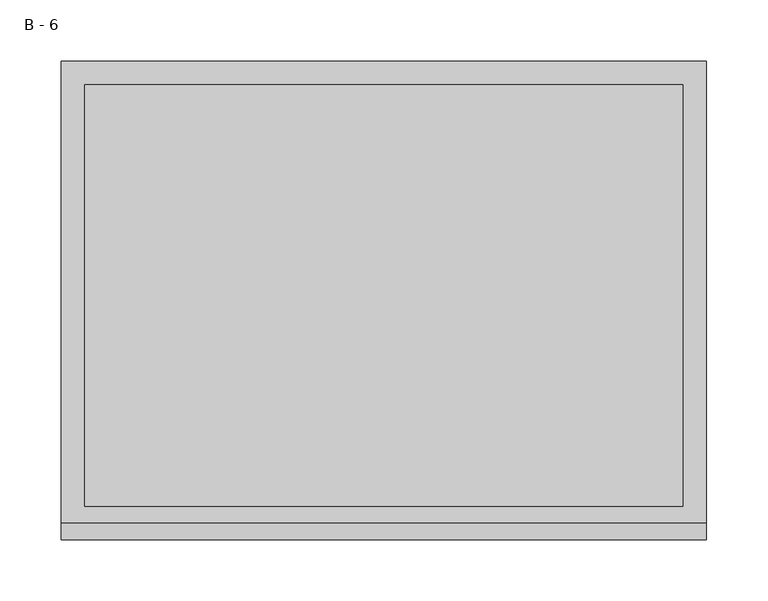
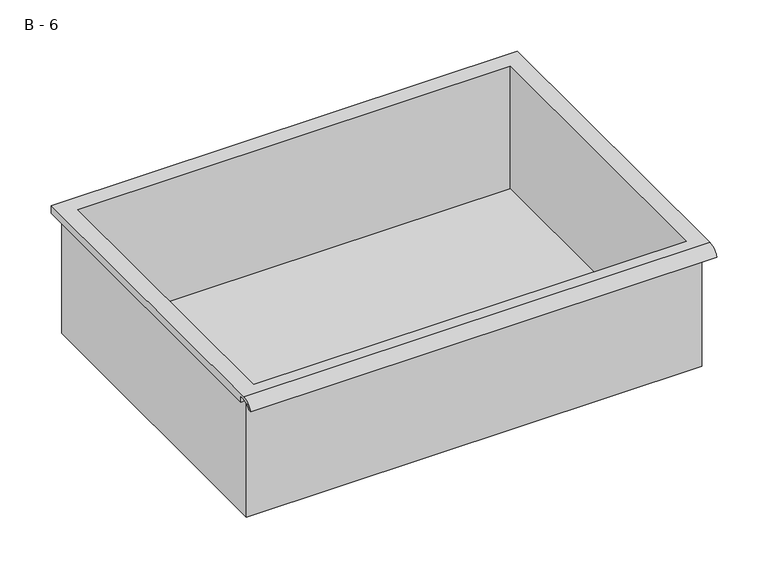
"""IFC4 building model written with IfcOpenShell, lengths in millimetres: furniture geometry, HermanMiller_CoStruc_CO207_Drawer : B - 6."""

from ifc_helpers import new_model, si_unit, frame, origin, place, context, project, spatial, polyline, circle_curve, source, transform, mapped, element, save
from ifc_brep_helpers import plane_surface, cylinder_surface, revolved_surface, advanced_brep


def b_6_024dd25a(model_context):
    return source(origin(), model_context, "Body", "AdvancedBrep", [
        advanced_brep(
        [(-257.1076517, -176.2125, 542.925), (257.2423483, -176.2125, 542.925), (257.2423483, -176.2125, 682.625), (263.5923483, -176.2125, 682.625), (263.5923483, -176.2125, 688.9321341), (-263.4576517, -176.2125, 688.9321341), (-263.4576517, -176.2125, 682.625), (-257.1076517, -176.2125, 682.625), (257.2423483, 185.7375, 542.925), (-257.1076517, 185.7375, 542.925), (-257.1076517, 185.7375, 682.625), (257.2423483, 185.7375, 682.625), (263.5923483, -181.6070544, 692.15), (263.5923483, 195.2625, 692.15), (-263.4576517, 195.2625, 692.15), (-263.4576517, -181.6070544, 692.15), (244.5423483, -168.275, 692.15), (-244.4076517, -168.275, 692.15), (-244.4076517, 176.2125, 692.15), (244.5423483, 176.2125, 692.15), (263.5923483, -195.2625, 682.625), (263.5923483, -191.8280601, 682.625), (263.5923483, -180.4714815, 688.9321341), (263.5923483, 195.2625, 682.625), (-263.4576517, 195.2625, 682.625), (-263.4576517, -180.4714815, 688.9321341), (-263.4576517, -191.8280601, 682.625), (-263.4576517, -195.2625, 682.625), (-244.4076517, -168.275, 545.9511719), (244.5423483, -168.275, 545.9511719), (244.5423483, 176.2125, 545.9511719), (-244.4076517, 176.2125, 545.9511719)],
        [
            (0, 1),
            (1, 2),
            (2, 3),
            (3, 4),
            (4, 5),
            (5, 6),
            (6, 7),
            (7, 0),
            (8, 9),
            (9, 10),
            (10, 11),
            (11, 8),
            (0, 9),
            (8, 1),
            (11, 2),
            (12, 13),
            (13, 14),
            (14, 15),
            (15, 12),
            (16, 17),
            (17, 18),
            (18, 19),
            (19, 16),
            (7, 10),
            (12, 20, circle_curve(frame((263.5923483, -181.6070544, 677.5989859), z_axis=(1.0, 0.0, 0.0), x_axis=(0.0, 1.0, 0.0)), 14.5510141)),
            (20, 21),
            (21, 22, circle_curve(frame((263.5923483, -181.6070544, 677.5989859), z_axis=(-1.0, 0.0, 0.0), x_axis=(0.0, 1.0, 0.0)), 11.3898979)),
            (22, 4),
            (3, 23),
            (23, 13),
            (14, 24),
            (24, 6),
            (5, 25),
            (25, 26, circle_curve(frame((-263.4576517, -181.6070544, 677.5989859), z_axis=(1.0, 0.0, 0.0), x_axis=(0.0, 1.0, 0.0)), 11.3898979)),
            (26, 27),
            (27, 15, circle_curve(frame((-263.4576517, -181.6070544, 677.5989859), z_axis=(-1.0, 0.0, 0.0), x_axis=(0.0, 1.0, 0.0)), 14.5510141)),
            (27, 20),
            (26, 21),
            (25, 22),
            (24, 23),
            (28, 29),
            (29, 30),
            (30, 31),
            (31, 28),
            (28, 17),
            (16, 29),
            (19, 30),
            (18, 31),
        ],
        [
            plane_surface(frame((257.2423483, -176.2125, 542.925), z_axis=(0.0, -1.0, 0.0), x_axis=(1.0, 0.0, 0.0))),
            plane_surface(frame((257.2423483, 185.7375, 542.925), z_axis=(0.0, 1.0, 0.0), x_axis=(-1.0, 0.0, 0.0))),
            plane_surface(frame((-257.1076517, -176.2125, 542.925), z_axis=(0.0, 0.0, -1.0), x_axis=(0.0, 1.0, 0.0))),
            plane_surface(frame((257.2423483, -176.2125, 542.925), z_axis=(1.0, 0.0, 0.0), x_axis=(0.0, 1.0, 0.0))),
            plane_surface(frame((257.2423483, -176.2125, 692.15), z_axis=(0.0, 0.0, 1.0), x_axis=(0.0, 1.0, 0.0))),
            plane_surface(frame((-257.1076517, -176.2125, 692.15), z_axis=(-1.0, 0.0, 0.0), x_axis=(0.0, 1.0, 0.0))),
            plane_surface(frame((263.5923483, 195.2625, 692.15), z_axis=(1.0, 0.0, 0.0), x_axis=(0.0, -1.0, 0.0))),
            plane_surface(frame((-263.4576517, 195.2625, 692.15), z_axis=(-1.0, 0.0, 0.0), x_axis=(0.0, 1.0, 0.0))),
            cylinder_surface(frame((-263.4576517, -181.6070544, 677.5989859), z_axis=(1.0, 0.0, 0.0), x_axis=(0.0, 1.0, 0.0)), 14.5510141),
            plane_surface(frame((263.5923483, -195.2625, 682.625), z_axis=(0.0, -7.212409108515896e-12, -1.0), x_axis=(-1.0, 0.0, 0.0))),
            revolved_surface(polyline([(-263.4576517, -170.21715650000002, 677.5989859), (263.59234829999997, -170.21715650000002, 677.5989859)]), (-263.4576517, -181.6070544, 677.5989859), (-1.0, 0.0, 0.0)),
            plane_surface(frame((263.5923483, -180.4714815, 688.9321341), z_axis=(0.0, -1.7861410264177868e-11, -1.0), x_axis=(-1.0, 0.0, 0.0))),
            plane_surface(frame((263.5923483, -176.2125, 682.625), z_axis=(0.0, 0.0, -1.0), x_axis=(-1.0, 0.0, 0.0))),
            plane_surface(frame((263.5923483, 195.2625, 682.625), z_axis=(0.0, 1.0, 0.0), x_axis=(-1.0, 0.0, 0.0))),
            plane_surface(frame((244.5423483, -168.275, 545.9511719), z_axis=(0.0, 0.0, 1.0), x_axis=(-1.0, 0.0, 0.0))),
            plane_surface(frame((-244.4076517, -168.275, 692.15), z_axis=(0.0, 1.0, 0.0), x_axis=(0.0, 0.0, -1.0))),
            plane_surface(frame((244.5423483, -168.275, 692.15), z_axis=(-1.0, 0.0, 0.0), x_axis=(0.0, 0.0, -1.0))),
            plane_surface(frame((244.5423483, 176.2125, 692.15), z_axis=(0.0, -1.0, 0.0), x_axis=(0.0, 0.0, -1.0))),
            plane_surface(frame((-244.4076517, 176.2125, 692.15), z_axis=(1.0, 0.0, 0.0), x_axis=(0.0, 0.0, -1.0))),
        ],
        [
            (0, [[1, 2, 3, 4, 5, 6, 7, 8]]),
            (1, [[9, 10, 11, 12]]),
            (2, [[-1, 13, -9, 14]]),
            (3, [[-14, -12, 15, -2]]),
            (4, [[16, 17, 18, 19], [20, 21, 22, 23]]),
            (5, [[-13, -8, 24, -10]]),
            (6, [[-16, 25, 26, 27, 28, -4, 29, 30]]),
            (7, [[31, 32, -6, 33, 34, 35, 36, -18]]),
            (8, [[-25, -19, -36, 37]]),
            (9, [[-26, -37, -35, 38]]),
            (10, [[-27, -38, -34, 39]]),
            (11, [[-28, -39, -33, -5]]),
            (12, [[-29, -3, -15, -11, -24, -7, -32, 40]]),
            (13, [[-30, -40, -31, -17]]),
            (14, [[41, 42, 43, 44]]),
            (15, [[-41, 45, -20, 46]]),
            (16, [[-42, -46, -23, 47]]),
            (17, [[-43, -47, -22, 48]]),
            (18, [[-44, -48, -21, -45]]),
        ],
    ),
    ])


if __name__ == "__main__":
    model = new_model("IFC4")
    model_context = context("Model", 3, world=origin())
    ifc_project = project(units=[si_unit("LENGTHUNIT", "METRE", prefix="MILLI")], contexts=[model_context])
    site = spatial("IfcSite", under=ifc_project)
    building = spatial("IfcBuilding", under=site)
    placement = place(None, origin())
    b_6_shape = b_6_024dd25a(model_context)
    element("IfcFurniture", 1, ObjectType="HermanMiller_CoStruc_CO207_Drawer : B - 6", at=placement, inside=building, context=model_context, shape_type="MappedRepresentation", body=[
        mapped(b_6_shape, transform((0.0, 0.0, 0.0), x_axis=(1.0, 0.0, 0.0), y_axis=(0.0, 1.0, 0.0), z_axis=(0.0, 0.0, 1.0))),
    ])
    save(model, "model.ifc")
